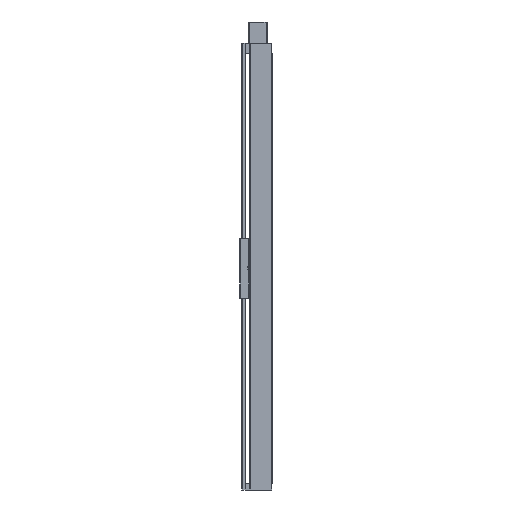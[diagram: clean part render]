
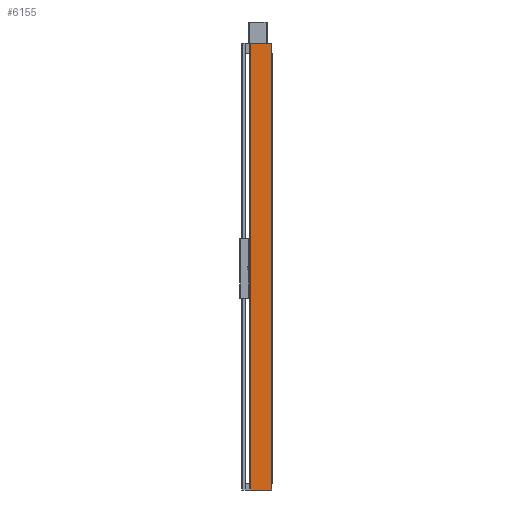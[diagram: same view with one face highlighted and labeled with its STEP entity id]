
A CAD part, left-side view. The second image highlights one B-rep face of the part: STEP entity #6155.
In plain terms, the highlighted planar face has unit normal (-1, 0, 0).
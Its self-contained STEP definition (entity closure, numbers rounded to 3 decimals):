
#1937=CARTESIAN_POINT('',(-68.,65.5,1345.0));
#1938=VERTEX_POINT('',#1937);
#1946=CARTESIAN_POINT('',(-68.0,0.5,1345.0));
#1947=VERTEX_POINT('',#1946);
#1948=CARTESIAN_POINT('',(-68.0,0.5,1345.0));
#1949=DIRECTION('',(0.0,1.0,0.0));
#1950=VECTOR('',#1949,65.0);
#1951=LINE('',#1948,#1950);
#1952=EDGE_CURVE('',#1947,#1938,#1951,.T.);
#5386=CARTESIAN_POINT('',(-68.0,0.5,-20.0));
#5387=VERTEX_POINT('',#5386);
#5396=CARTESIAN_POINT('',(-68.,65.5,-20.0));
#5397=VERTEX_POINT('',#5396);
#5398=CARTESIAN_POINT('',(-68.,65.5,-20.0));
#5399=DIRECTION('',(0.0,-1.0,0.0));
#5400=VECTOR('',#5399,65.0);
#5401=LINE('',#5398,#5400);
#5402=EDGE_CURVE('',#5397,#5387,#5401,.T.);
#6104=CARTESIAN_POINT('',(-68.0,0.5,-20.0));
#6105=DIRECTION('',(0.0,0.0,1.0));
#6106=VECTOR('',#6105,1365.0);
#6107=LINE('',#6104,#6106);
#6108=EDGE_CURVE('',#5387,#1947,#6107,.T.);
#6139=CARTESIAN_POINT('',(-68.0,0.5,0.0));
#6140=DIRECTION('',(-1.0,0.0,0.0));
#6141=DIRECTION('',(0.0,0.0,1.0));
#6142=AXIS2_PLACEMENT_3D('',#6139,#6140,#6141);
#6143=PLANE('',#6142);
#6144=CARTESIAN_POINT('',(-68.,65.5,-20.0));
#6145=DIRECTION('',(0.0,0.0,1.0));
#6146=VECTOR('',#6145,1365.0);
#6147=LINE('',#6144,#6146);
#6148=EDGE_CURVE('',#5397,#1938,#6147,.T.);
#6149=ORIENTED_EDGE('',*,*,#6148,.F.);
#6150=ORIENTED_EDGE('',*,*,#5402,.T.);
#6151=ORIENTED_EDGE('',*,*,#6108,.T.);
#6152=ORIENTED_EDGE('',*,*,#1952,.T.);
#6153=EDGE_LOOP('',(#6149,#6150,#6151,#6152));
#6154=FACE_OUTER_BOUND('',#6153,.T.);
#6155=ADVANCED_FACE('',(#6154),#6143,.T.);
